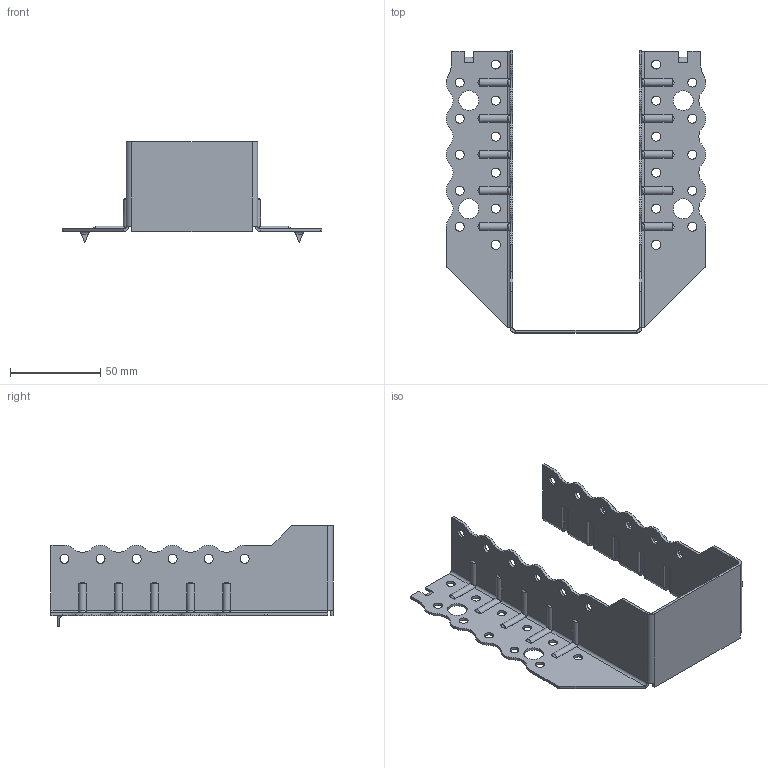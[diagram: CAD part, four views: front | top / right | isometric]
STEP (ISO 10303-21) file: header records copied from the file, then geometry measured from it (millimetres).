
FILE_DESCRIPTION (( 'STEP AP203' ), '1' );
FILE_NAME ('30617TOPK.STEP', '2021-04-08T14:39:22', ( '' ), ( '' ), 'SwSTEP 2.0', 'SolidWorks 2013', '' );
FILE_SCHEMA (( 'CONFIG_CONTROL_DESIGN' ));
Length unit declared in the file: millimetre
Products named in the file (1): 30617TOPK
Bounding box: 144 x 156.5 x 56 mm (x, y, z)
Volume: 35891 mm3; surface area: 51210.5 mm2
Topology: 1 solids, 1 shells, 426 faces, 1148 edges, 724 vertices
Faces by surface type: cylinder 267, plane 119, torus 20, bspline 20
Entity records: 15806 total; most frequent: CARTESIAN_POINT 4995, ORIENTED_EDGE 2296, DIRECTION 2214, EDGE_CURVE 1148, AXIS2_PLACEMENT_3D 807, VERTEX_POINT 724, VECTOR 600, LINE 600
